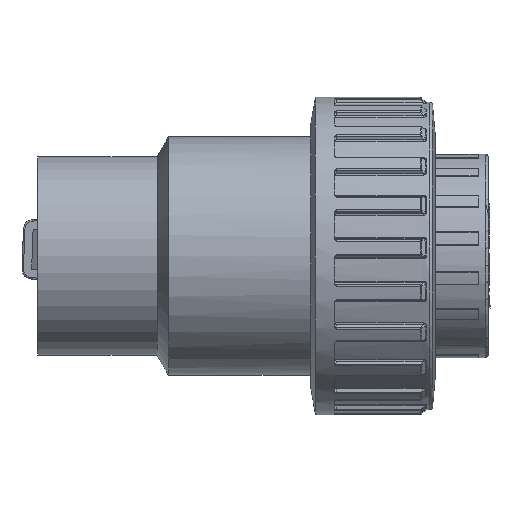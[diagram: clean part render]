
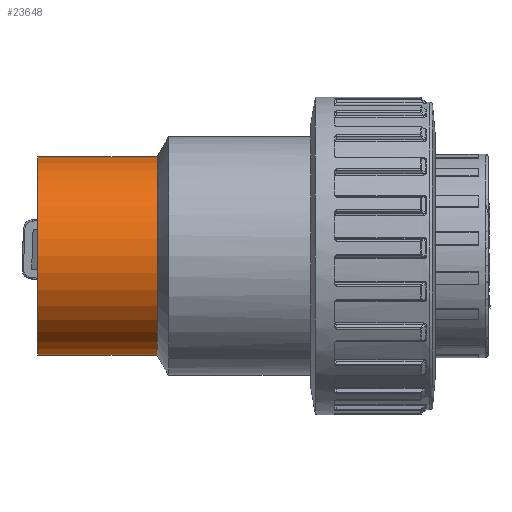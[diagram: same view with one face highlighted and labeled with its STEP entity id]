
A CAD part, top view. The second image highlights one B-rep face of the part: STEP entity #23648.
In plain terms, the highlighted cylindrical face has radius 30 mm (diameter 60 mm), a full revolution.
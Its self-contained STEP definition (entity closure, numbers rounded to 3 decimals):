
#1689=CYLINDRICAL_SURFACE('',#25290,30.);
#2055=FACE_BOUND('',#4893,.T.);
#2209=CIRCLE('',#25289,30.);
#2210=CIRCLE('',#25291,30.);
#3407=FACE_OUTER_BOUND('',#4892,.T.);
#4892=EDGE_LOOP('',(#15792));
#4893=EDGE_LOOP('',(#15793));
#9652=VERTEX_POINT('',#35606);
#9653=VERTEX_POINT('',#35609);
#12043=EDGE_CURVE('',#9652,#9652,#2209,.T.);
#12044=EDGE_CURVE('',#9653,#9653,#2210,.T.);
#15792=ORIENTED_EDGE('',*,*,#12043,.T.);
#15793=ORIENTED_EDGE('',*,*,#12044,.F.);
#23648=ADVANCED_FACE('',(#3407,#2055),#1689,.T.);
#25289=AXIS2_PLACEMENT_3D('',#35607,#27946,#27947);
#25290=AXIS2_PLACEMENT_3D('',#35608,#27948,#27949);
#25291=AXIS2_PLACEMENT_3D('',#35610,#27950,#27951);
#27946=DIRECTION('center_axis',(1.,0.,0.));
#27947=DIRECTION('ref_axis',(0.,0.,-1.));
#27948=DIRECTION('center_axis',(1.,0.,0.));
#27949=DIRECTION('ref_axis',(0.,1.,0.));
#27950=DIRECTION('center_axis',(1.,0.,0.));
#27951=DIRECTION('ref_axis',(0.,0.,-1.));
#35606=CARTESIAN_POINT('',(-107.086,30.,0.));
#35607=CARTESIAN_POINT('Origin',(-107.086,0.,0.));
#35608=CARTESIAN_POINT('Origin',(-89.086,0.,0.));
#35609=CARTESIAN_POINT('',(-71.086,30.,0.));
#35610=CARTESIAN_POINT('Origin',(-71.086,0.,0.));
